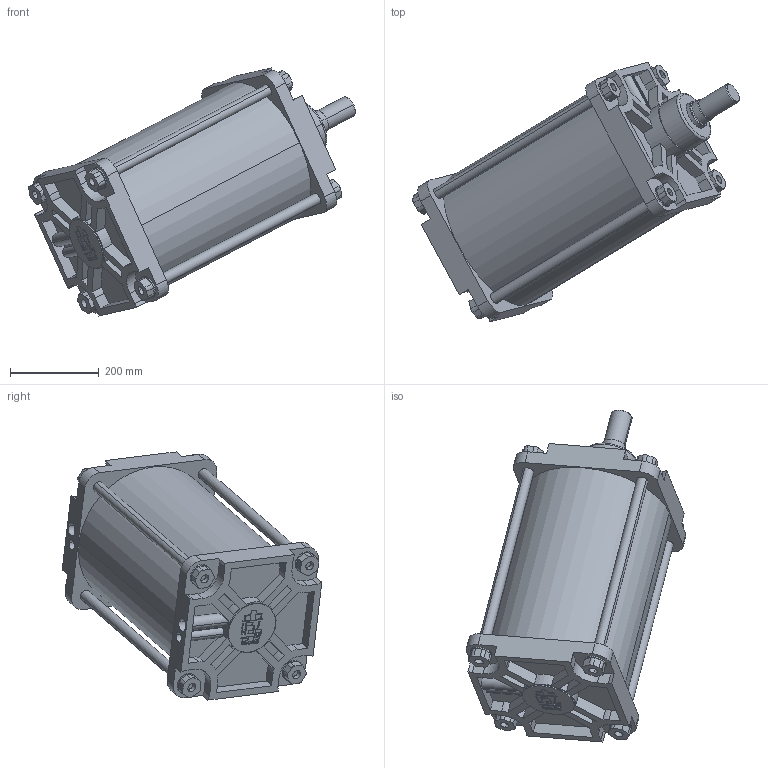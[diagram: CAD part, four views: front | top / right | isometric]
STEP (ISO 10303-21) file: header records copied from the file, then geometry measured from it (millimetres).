
FILE_DESCRIPTION(('CATIA V5 STEP Exchange'),'2;1');
FILE_NAME('D:\stp file for catalog\PNC\320\PNC 320-63-350.stp','2015-10-27T14:02:00+00:00',('none'),('none'),'Version 5-6 Release 2012','CATIA V5 STEP AP203','none');
FILE_SCHEMA(('CONFIG_CONTROL_DESIGN'));
Length unit declared in the file: millimetre
Products named in the file (1): PNC 320-63-350-00
Assembly tree (2 placements, depth 2):
  PNC 320-63-350-00
    #58
    #14831
Bounding box: 735.55 x 584.75 x 558.93 mm (x, y, z)
Volume: 19174923.9 mm3; surface area: 2111105.4 mm2
Topology: 2 solids, 4 shells, 522 faces, 1393 edges, 921 vertices
Faces by surface type: plane 305, cylinder 169, cone 42, torus 6
Entity records: 15447 total; most frequent: CARTESIAN_POINT 3485, ORIENTED_EDGE 2786, DIRECTION 1853, EDGE_CURVE 1393, VERTEX_POINT 921, VECTOR 878, LINE 878, AXIS2_PLACEMENT_3D 682
